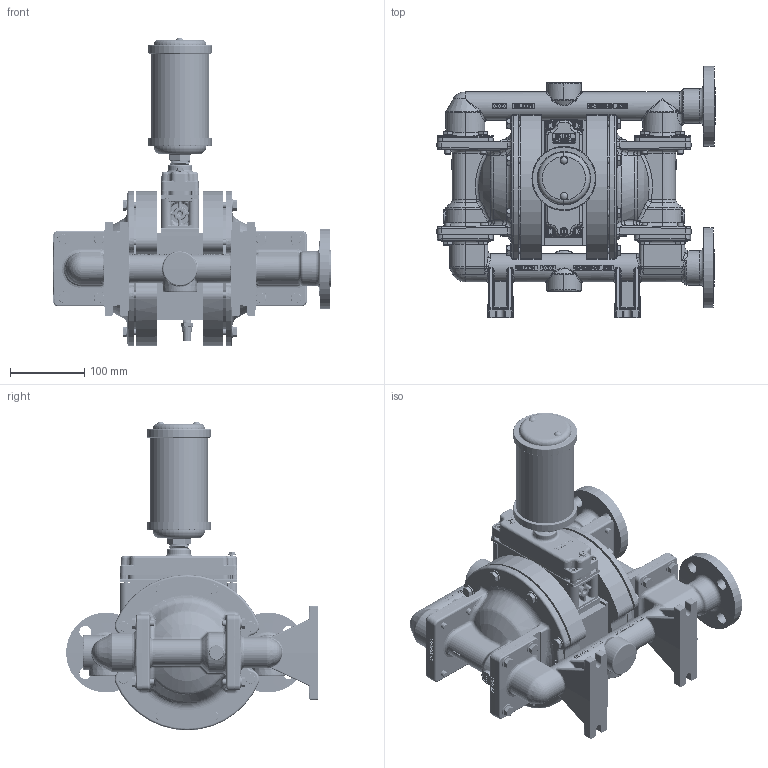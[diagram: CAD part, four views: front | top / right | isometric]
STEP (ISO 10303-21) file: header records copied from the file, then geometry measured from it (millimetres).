
FILE_DESCRIPTION((''),'2;1');
FILE_NAME('PS230_SS_TOP','2022-07-07T16:12:36',('11010273'),(''),'CREO PARAMETRIC BY PTC INC, 2022124','CREO PARAMETRIC BY PTC INC, 2022124','');
FILE_SCHEMA(('CONFIG_CONTROL_DESIGN'));
Length unit declared in the file: inch
Products named in the file (1): PS230_SS_TOP
Bounding box: 376.36 x 339.98 x 416.86 mm (x, y, z)
Volume: 8531193.3 mm3; surface area: 651243.1 mm2
Topology: 1 solids, 1 shells, 6721 faces, 17858 edges, 11350 vertices
Faces by surface type: plane 4384, cylinder 977, cone 449, bspline 444, torus 321, sphere 140, extrusion 6
Entity records: 256071 total; most frequent: CARTESIAN_POINT 92533, ORIENTED_EDGE 35444, DIRECTION 31773, EDGE_CURVE 17722, VECTOR 12501, LINE 12495, VERTEX_POINT 11350, AXIS2_PLACEMENT_3D 9636
